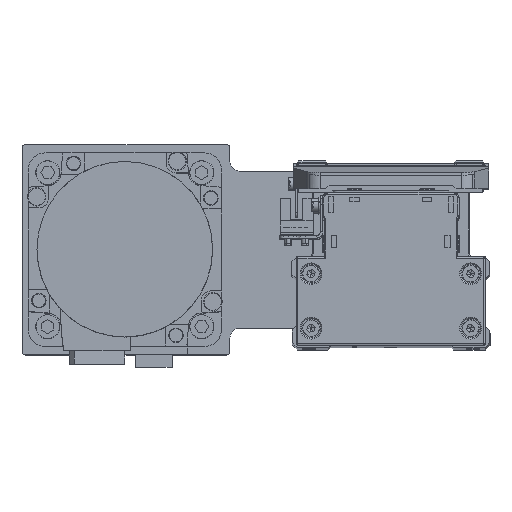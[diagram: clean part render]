
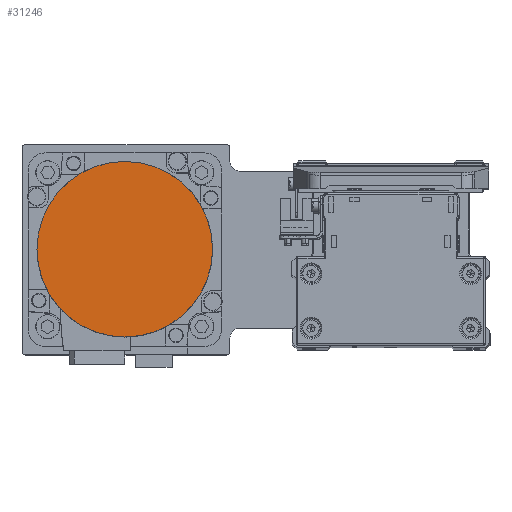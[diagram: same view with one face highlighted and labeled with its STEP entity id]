
A CAD part, top view. The second image highlights one B-rep face of the part: STEP entity #31246.
In plain terms, the highlighted planar face has unit normal (0, 0, 1) as drawn and (0, 0, -1) by its records, which use the part's own axes.
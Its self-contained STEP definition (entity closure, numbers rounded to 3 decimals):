
#1030 = CARTESIAN_POINT ( 'NONE',  ( 0., 0., -122.2 ) ) ;
#4663 = ORIENTED_EDGE ( 'NONE', *, *, #12601, .F. ) ;
#5052 = VERTEX_POINT ( 'NONE', #11549 ) ;
#6670 = EDGE_CURVE ( 'NONE', #5052, #22196, #22808, .T. ) ;
#7343 = AXIS2_PLACEMENT_3D ( 'NONE', #1030, #13165, #25312 ) ;
#8553 = AXIS2_PLACEMENT_3D ( 'NONE', #11313, #23468, #35630 ) ;
#10890 = DIRECTION ( 'NONE',  ( 0., 1., 0. ) ) ;
#11313 = CARTESIAN_POINT ( 'NONE',  ( 0., 0., -122.2 ) ) ;
#11549 = CARTESIAN_POINT ( 'NONE',  ( 0., 36.3, -122.2 ) ) ;
#12601 = EDGE_CURVE ( 'NONE', #22196, #5052, #24528, .T. ) ;
#13165 = DIRECTION ( 'NONE',  ( 0., 0., 1. ) ) ;
#22196 = VERTEX_POINT ( 'NONE', #30789 ) ;
#22808 = CIRCLE ( 'NONE', #27921, 36.3 ) ;
#23468 = DIRECTION ( 'NONE',  ( 0., 0., 1. ) ) ;
#24528 = CIRCLE ( 'NONE', #7343, 36.3 ) ;
#25312 = DIRECTION ( 'NONE',  ( 0., -1., 0. ) ) ;
#25744 = EDGE_LOOP ( 'NONE', ( #29144, #4663 ) ) ;
#26033 = CARTESIAN_POINT ( 'NONE',  ( 0., 0., -122.2 ) ) ;
#26462 = FACE_OUTER_BOUND ( 'NONE', #25744, .T. ) ;
#27921 = AXIS2_PLACEMENT_3D ( 'NONE', #26033, #38190, #10890 ) ;
#29144 = ORIENTED_EDGE ( 'NONE', *, *, #6670, .F. ) ;
#30789 = CARTESIAN_POINT ( 'NONE',  ( 0., -36.3, -122.2 ) ) ;
#31246 = ADVANCED_FACE ( 'NONE', ( #26462 ), #38620, .F. ) ;
#35630 = DIRECTION ( 'NONE',  ( 1., 0., 0. ) ) ;
#38190 = DIRECTION ( 'NONE',  ( 0., 0., 1. ) ) ;
#38620 = PLANE ( 'NONE',  #8553 ) ;
